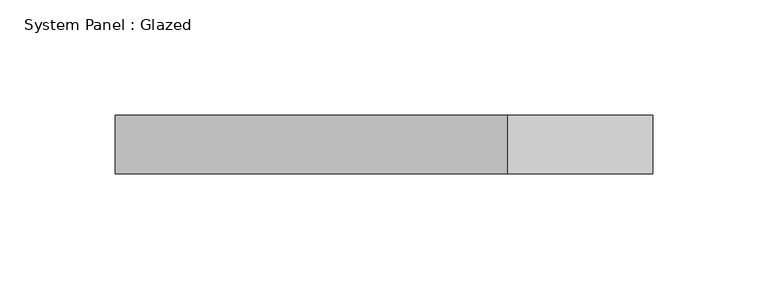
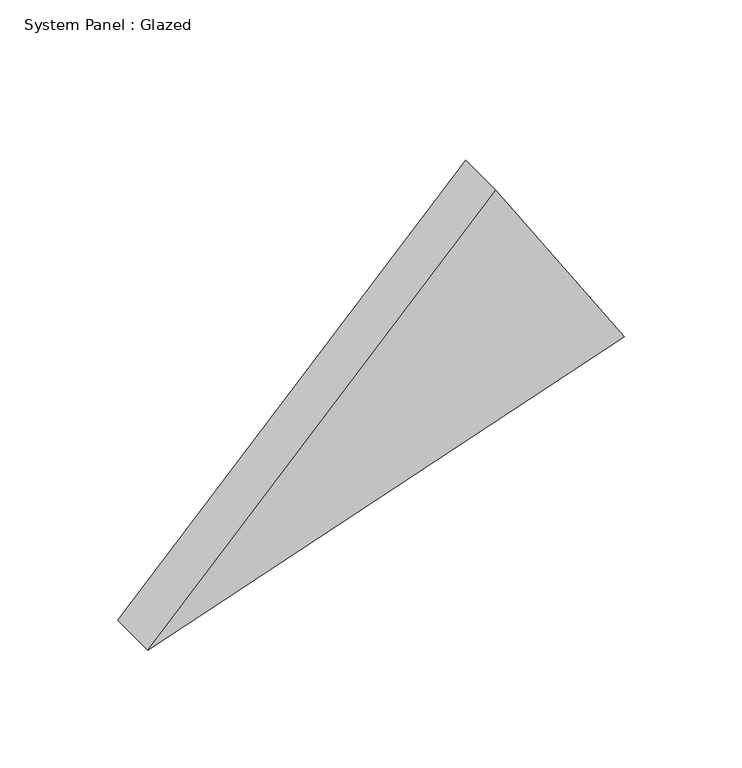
"""IFC4 building model written with IfcOpenShell, lengths in millimetres: plate geometry, System Panel : Glazed."""

from ifc_helpers import new_model, si_unit, frame, origin, place, context, project, spatial, polyline, outline, extrude, source, transform, mapped, element, save


def system_panel_glazed_c7e3ad41(model_context):
    return source(origin(), model_context, "Body", "SweptSolid", [
        extrude(outline(polyline([(0.0, -116.7635939), (80.8160009, 116.7635939), (178.7704762, 53.844994), (0.0, -116.7635939)])), frame((0.0, 19.05, 0.0), z_axis=(0.0, 1.0, 0.0), x_axis=(0.0, 0.0, 1.0)), (0.0, 0.0, 1.0), 25.4),
    ])


if __name__ == "__main__":
    model = new_model("IFC4")
    model_context = context("Model", 3, world=origin())
    ifc_project = project(units=[si_unit("LENGTHUNIT", "METRE", prefix="MILLI")], contexts=[model_context])
    site = spatial("IfcSite", under=ifc_project)
    building = spatial("IfcBuilding", under=site)
    placement = place(None, origin())
    system_panel_glazed_shape = system_panel_glazed_c7e3ad41(model_context)
    element("IfcPlate", 1, ObjectType="System Panel : Glazed", at=placement, inside=building, context=model_context, shape_type="MappedRepresentation", body=[
        mapped(system_panel_glazed_shape, transform((0.0, 0.0, 0.0), x_axis=(1.0, 0.0, 0.0), y_axis=(0.0, 1.0, 0.0), z_axis=(0.0, 0.0, 1.0))),
    ])
    save(model, "model.ifc")
